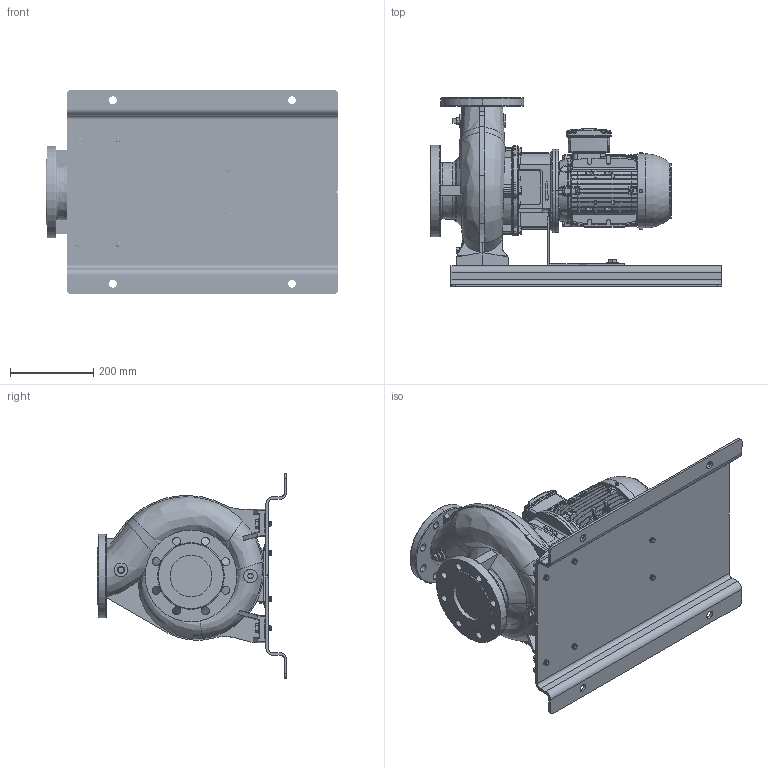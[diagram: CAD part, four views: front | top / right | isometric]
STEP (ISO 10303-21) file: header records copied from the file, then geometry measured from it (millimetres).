
FILE_DESCRIPTION (( 'STEP AP214' ), '1' );
FILE_NAME ('GSD4 80-160_1.5_(90SL)_W21_BP.STEP', '2026-05-08T06:54:24', ( '' ), ( '' ), 'SwSTEP 2.0', 'SolidWorks 2024', '' );
FILE_SCHEMA (( 'AUTOMOTIVE_DESIGN' ));
Length unit declared in the file: millimetre
Products named in the file (8): 80-160-90S_L_ﾃﾞﾌｫﾙﾄ; 90S_L ALIE3_W21T_B5; Parametric bolt_SFT-A295B; GSD4 80-160_1.5_(90SL)_W21_BP; Parametric bolt_SFT-A299B; CGSD1-4173; N5S5 GSDA-551 F1-1832914-00; Parametric Flat Washer_M12
Assembly tree (16 placements, depth 2):
  GSD4 80-160_1.5_(90SL)_W21_BP
    80-160-90S_L_ﾃﾞﾌｫﾙﾄ
    90S_L ALIE3_W21T_B5
    N5S5 GSDA-551 F1-1832914-00
    CGSD1-4173
    Parametric bolt_SFT-A299B  x4
    Parametric bolt_SFT-A295B  x2
    Parametric Flat Washer_M12  x6
Bounding box: 700 x 455 x 490 mm (x, y, z)
Volume: 20509577 mm3; surface area: 2050539.1 mm2
Topology: 19 solids, 23 shells, 3763 faces, 9915 edges, 6377 vertices
Faces by surface type: plane 1932, cylinder 1063, torus 302, bspline 261, cone 183, sphere 22
Entity records: 192989 total; most frequent: CARTESIAN_POINT 108285, ORIENTED_EDGE 18472, DIRECTION 16322, EDGE_CURVE 9236, VERTEX_POINT 5964, AXIS2_PLACEMENT_3D 5497, VECTOR 5328, LINE 5328
